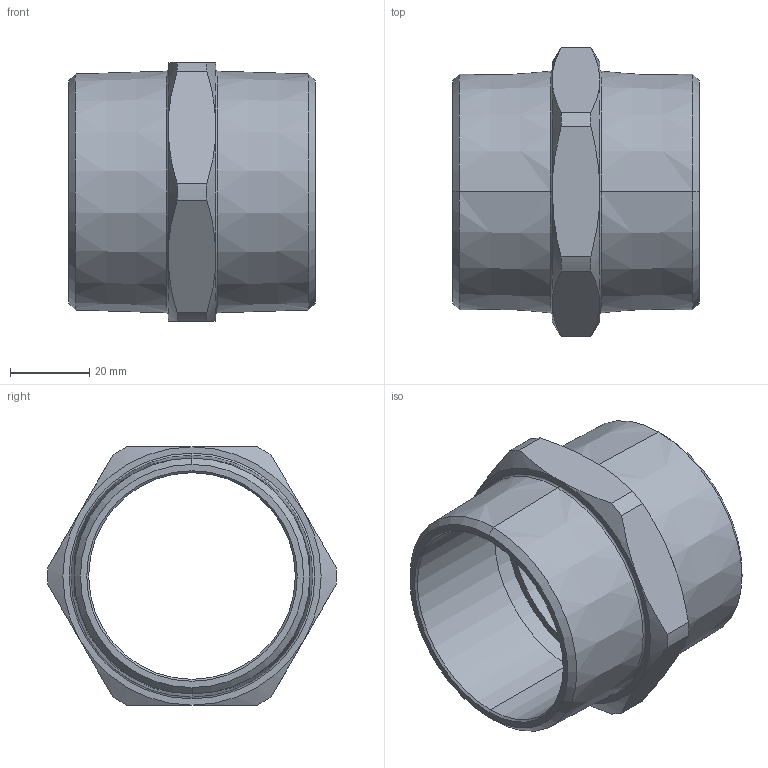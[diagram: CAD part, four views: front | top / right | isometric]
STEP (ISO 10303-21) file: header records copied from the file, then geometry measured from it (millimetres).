
FILE_DESCRIPTION (( 'STEP AP203' ), '1' );
FILE_NAME ('ﾍﾂﾍ6Nﾍ.STEP', '2019-06-05T12:29:20', ( '' ), ( '' ), 'SwSTEP 2.0', 'SolidWorks 2012', '' );
FILE_SCHEMA (( 'CONFIG_CONTROL_DESIGN' ));
Length unit declared in the file: millimetre
Products named in the file (1): ﾍﾂﾍ6Nﾍ
Bounding box: 62 x 72.79 x 65 mm (x, y, z)
Volume: 50794.3 mm3; surface area: 24908.6 mm2
Topology: 1 solids, 1 shells, 52 faces, 114 edges, 68 vertices
Faces by surface type: cone 24, cylinder 12, plane 12, torus 4
Entity records: 1635 total; most frequent: CARTESIAN_POINT 411, DIRECTION 256, ORIENTED_EDGE 228, EDGE_CURVE 114, AXIS2_PLACEMENT_3D 113, VERTEX_POINT 68, CIRCLE 60, EDGE_LOOP 58
